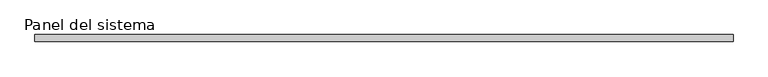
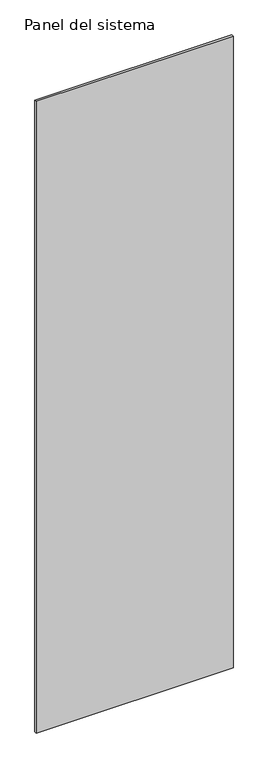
"""IFC4 building model written with IfcOpenShell, lengths in millimetres: plate geometry, Panel del sistema : HIANSA PANEL - PANELES DE CUBIERTA SIN TAPAJUNTA - EASY BOARD 5GR - Esp. 10mm."""

from ifc_helpers import new_model, si_unit, origin, origin_with_axes, place, context, project, spatial, polyline, outline, extrude, source, transform, mapped, element, save


def panel_del_sistema_2c4d4257(model_context):
    return source(origin(), model_context, "Body", "SweptSolid", [
        extrude(outline(polyline([(500.0000002, 35.5), (-500.0000002, 35.5), (-500.0000002, 45.5), (500.0000002, 45.5), (500.0000002, 35.5)])), origin_with_axes(), (0.0, 0.0, 1.0), 3390.8509027),
    ])


if __name__ == "__main__":
    model = new_model("IFC4")
    model_context = context("Model", 3, world=origin())
    ifc_project = project(units=[si_unit("LENGTHUNIT", "METRE", prefix="MILLI")], contexts=[model_context])
    site = spatial("IfcSite", under=ifc_project)
    building = spatial("IfcBuilding", under=site)
    placement = place(None, origin())
    panel_del_sistema_shape = panel_del_sistema_2c4d4257(model_context)
    element("IfcPlate", 1, ObjectType="Panel del sistema : HIANSA PANEL - PANELES DE CUBIERTA SIN TAPAJUNTA - EASY BOARD 5GR - Esp. 10mm", at=placement, inside=building, context=model_context, shape_type="MappedRepresentation", body=[
        mapped(panel_del_sistema_shape, transform((0.0, 0.0, 0.0), x_axis=(1.0, 0.0, 0.0), y_axis=(0.0, 1.0, 0.0), z_axis=(0.0, 0.0, 1.0))),
    ])
    save(model, "model.ifc")
